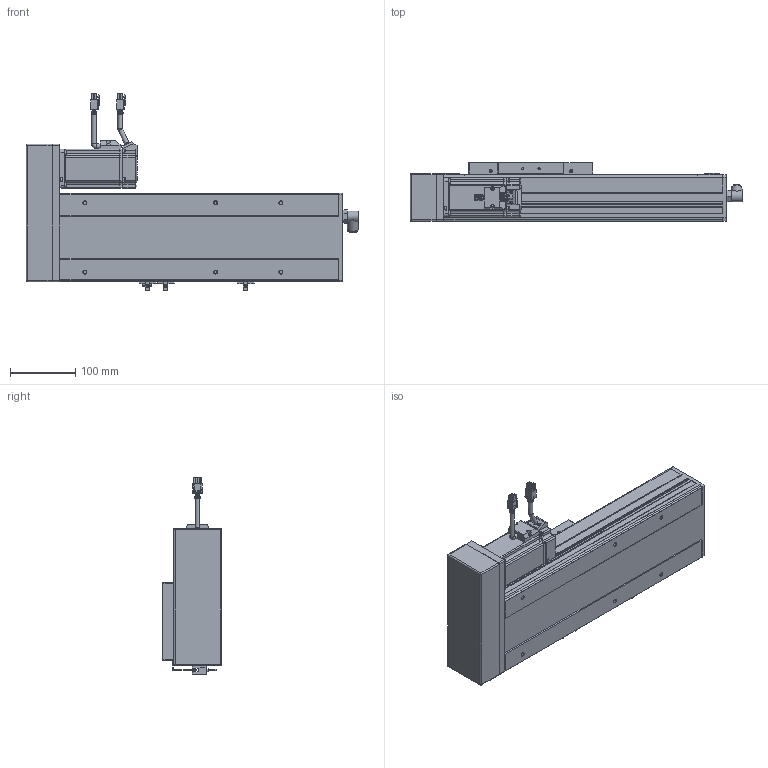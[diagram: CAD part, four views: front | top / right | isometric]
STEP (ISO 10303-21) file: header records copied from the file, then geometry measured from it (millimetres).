
FILE_DESCRIPTION(/* description */ ('STEP AP214'),/* implementation_level */ '2;1');
FILE_NAME(/* name */ 'PSC140-L05-S150-BL-P40-C1-N(0)',/* time_stamp */ '2022-06-13T03:26:12+02:00',/* author */ ('License CC BY-ND 4.0'),/* organization */ ('CADENAS'),/* preprocessor_version */ 'ST-DEVELOPER v18.102',/* originating_system */ 'PARTsolutions',/* authorisation */ ' ');
FILE_SCHEMA (('AUTOMOTIVE_DESIGN {1 0 10303 214 3 1 1}'));
Length unit declared in the file: millimetre
Products named in the file (11): PSC140-L05-S150-BL-P40-C1-N(0); P40-s2; P40-c2; P40-s1; P40-c1; P40-p1; PSC140-BL-body2; PSC140-sensor; PSC140-BL-SLIDER; PSC140-S150-BL-P40-C1_BODY1; PSC140-L05-S150-BL-P40-C1-N(0)_dummy
Assembly tree (12 placements, depth 2):
  PSC140-L05-S150-BL-P40-C1-N(0)
    P40-s2
    P40-c2
    P40-s1
    P40-c1
    P40-p1
    PSC140-BL-body2
    PSC140-sensor  x3
    PSC140-BL-SLIDER
    PSC140-S150-BL-P40-C1_BODY1
    PSC140-L05-S150-BL-P40-C1-N(0)_dummy
Bounding box: 508 x 91 x 300.88 mm (x, y, z)
Volume: 5667425.5 mm3; surface area: 402137.4 mm2
Topology: 11 solids, 11 shells, 1213 faces, 3149 edges, 2085 vertices
Faces by surface type: plane 852, cylinder 308, cone 34, torus 19
Full cylindrical faces by diameter (mm): 1 x8, 2.6 x10, 2.8 x3, 3.3 x8, 4.5 x12, 4.6 x3, 4.917 x10, 5 x4, 5.5 x8, 6 x10, 7 x10, 9 x2, 10 x1, 11 x1, 12 x1, 13.74 x1, 14 x1, 16.4 x2, 16.5 x1, 36 x1, 50 x2
Entity records: 33726 total; most frequent: CARTESIAN_POINT 5899, DIRECTION 5659, ORIENTED_EDGE 5498, EDGE_CURVE 2749, LINE 2097, VECTOR 2097, VERTEX_POINT 1906, AXIS2_PLACEMENT_3D 1781
